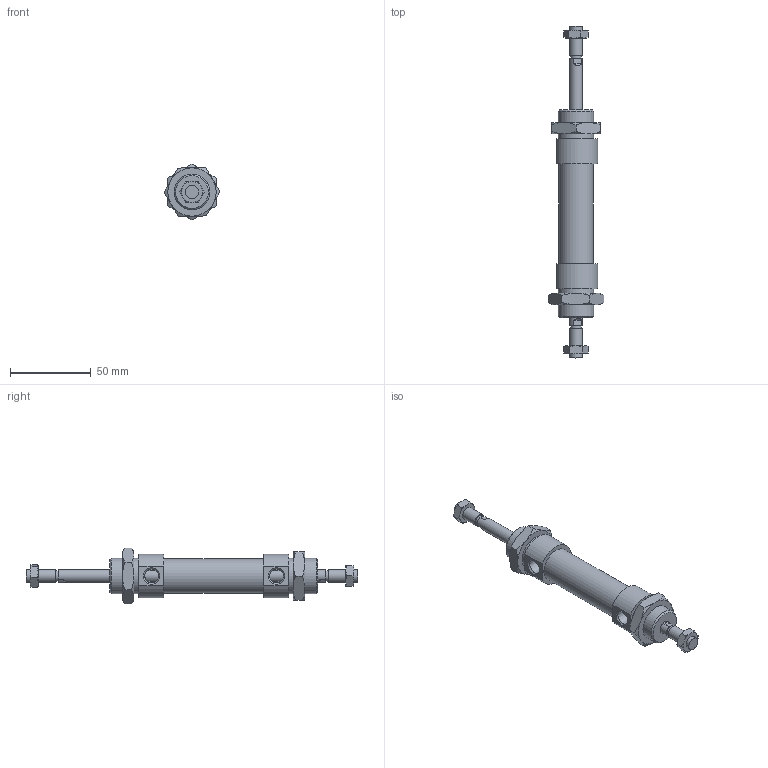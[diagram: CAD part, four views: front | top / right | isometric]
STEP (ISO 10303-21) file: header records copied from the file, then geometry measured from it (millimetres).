
FILE_DESCRIPTION((''),'2;1');
FILE_NAME('I:\Area Tecnica\Disegni\VARIE-3D\Componenti\1280\1282_##_####_#\1282_20_0025.iam.stp','2009-06-03T15:25:08',(''),(''),'Autodesk Inventor 2010','Autodesk Inventor 2010','');
FILE_SCHEMA(('AUTOMOTIVE_DESIGN { 1 0 10303 214 1 1 1 1 }'));
Length unit declared in the file: millimetre
Products named in the file (5): 1282_20_0025; C1282_20_25; S1282_20_25; 1200_20_05; 1200_20_06
Assembly tree (6 placements, depth 2):
  1282_20_0025
    C1282_20_25
    S1282_20_25
    1200_20_05  x2
    1200_20_06  x2
Bounding box: 34.64 x 206 x 34.64 mm (x, y, z)
Volume: 62749.9 mm3; surface area: 24340.2 mm2
Topology: 6 solids, 6 shells, 141 faces, 309 edges, 184 vertices
Faces by surface type: plane 60, cone 52, bspline 18, cylinder 11
Full cylindrical faces by diameter (mm): 6.5 x2, 8 x4, 21.2 x1, 22 x2
Entity records: 2813 total; most frequent: CARTESIAN_POINT 727, DIRECTION 386, ORIENTED_EDGE 352, EDGE_CURVE 176, AXIS2_PLACEMENT_3D 169, EDGE_LOOP 132, VERTEX_POINT 116, STYLED_ITEM 99
